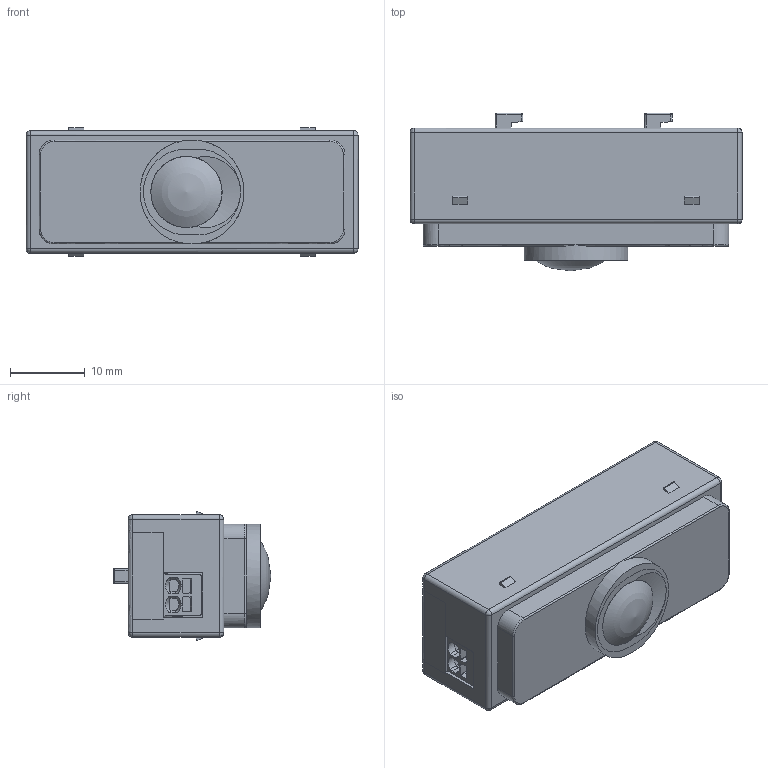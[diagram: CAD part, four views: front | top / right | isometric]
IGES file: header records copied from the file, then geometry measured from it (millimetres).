
Global section: file name: 15013928_00; native system: Autodesk Inventor 2017; preprocessor: unknown; author: muell; date: 20210407.170721; units: millimetre
Bounding box: 44.4 x 21.09 x 17.2 mm (x, y, z)
Volume: 6142.2 mm3; surface area: 9236.7 mm2
Topology: 12 solids, 14 shells, 634 faces, 1629 edges, 1041 vertices
Faces by surface type: bspline 634
